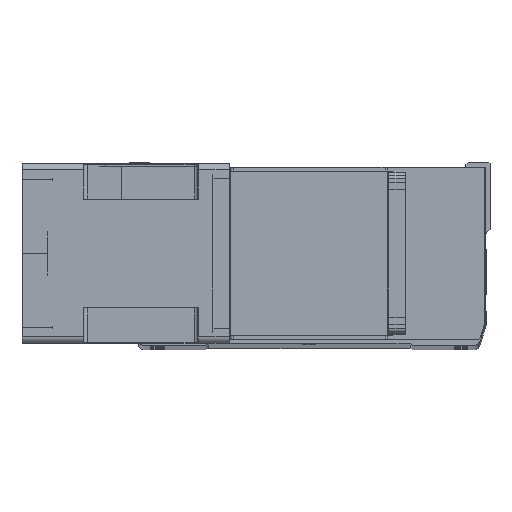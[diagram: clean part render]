
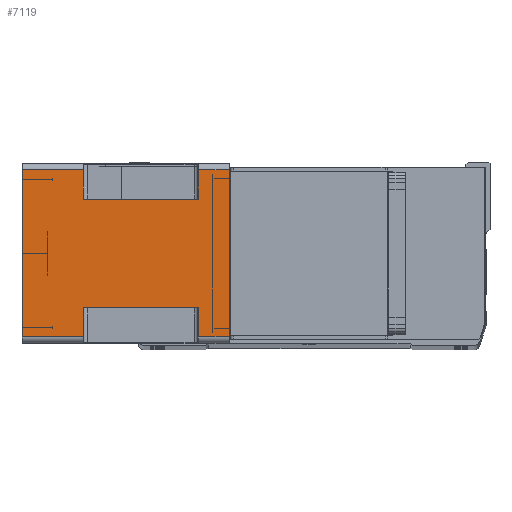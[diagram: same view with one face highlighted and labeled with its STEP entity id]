
A CAD part, top view. The second image highlights one B-rep face of the part: STEP entity #7119.
In plain terms, the highlighted planar face has unit normal (0, 0, 1) as drawn and (-1, 0, 0) by its records, which use the part's own axes.
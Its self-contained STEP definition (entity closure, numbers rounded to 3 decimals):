
#190 = CARTESIAN_POINT ( 'NONE',  ( -71., -66., -164. ) ) ;
#579 = VECTOR ( 'NONE', #14126, 1000. ) ;
#592 = VERTEX_POINT ( 'NONE', #5263 ) ;
#1368 = LINE ( 'NONE', #35468, #8006 ) ;
#2815 = VERTEX_POINT ( 'NONE', #42712 ) ;
#3352 = DIRECTION ( 'NONE',  ( 0., -1., 0. ) ) ;
#4377 = VERTEX_POINT ( 'NONE', #14183 ) ;
#5263 = CARTESIAN_POINT ( 'NONE',  ( -71., -43., -115.5 ) ) ;
#5318 = VECTOR ( 'NONE', #20787, 1000. ) ;
#6945 = ORIENTED_EDGE ( 'NONE', *, *, #34319, .T. ) ;
#7016 = CARTESIAN_POINT ( 'NONE',  ( -71., -66., -115.5 ) ) ;
#7091 = LINE ( 'NONE', #35475, #20367 ) ;
#7119 = ADVANCED_FACE ( 'NONE', ( #14663 ), #42108, .T. ) ;
#7985 = CARTESIAN_POINT ( 'NONE',  ( -71., -66., -115.5 ) ) ;
#8006 = VECTOR ( 'NONE', #18277, 1000. ) ;
#8686 = CARTESIAN_POINT ( 'NONE',  ( -71., 66., 0. ) ) ;
#8921 = ORIENTED_EDGE ( 'NONE', *, *, #37000, .T. ) ;
#9032 = CARTESIAN_POINT ( 'NONE',  ( -71., 66., -115.5 ) ) ;
#9095 = EDGE_CURVE ( 'NONE', #4377, #18160, #34896, .T. ) ;
#9332 = LINE ( 'NONE', #15370, #28165 ) ;
#9591 = DIRECTION ( 'NONE',  ( 0., 1., 0. ) ) ;
#10053 = CARTESIAN_POINT ( 'NONE',  ( -71., -43., -115.5 ) ) ;
#11007 = DIRECTION ( 'NONE',  ( 0., 0., 1. ) ) ;
#11653 = ORIENTED_EDGE ( 'NONE', *, *, #19585, .T. ) ;
#13580 = CARTESIAN_POINT ( 'NONE',  ( -71., -66., -164. ) ) ;
#14031 = DIRECTION ( 'NONE',  ( -1., 0., 0. ) ) ;
#14126 = DIRECTION ( 'NONE',  ( 0., -1., 0. ) ) ;
#14183 = CARTESIAN_POINT ( 'NONE',  ( -71., 66., -164. ) ) ;
#14238 = EDGE_CURVE ( 'NONE', #18160, #36645, #31887, .T. ) ;
#14663 = FACE_OUTER_BOUND ( 'NONE', #46023, .T. ) ;
#14752 = CARTESIAN_POINT ( 'NONE',  ( -71., 66., -164. ) ) ;
#15370 = CARTESIAN_POINT ( 'NONE',  ( -71., -43., -164. ) ) ;
#15800 = VERTEX_POINT ( 'NONE', #8686 ) ;
#15878 = VECTOR ( 'NONE', #38753, 1000. ) ;
#15987 = VECTOR ( 'NONE', #37329, 1000. ) ;
#16794 = CARTESIAN_POINT ( 'NONE',  ( -71., 66., -24.5 ) ) ;
#17141 = LINE ( 'NONE', #10053, #38205 ) ;
#17968 = ORIENTED_EDGE ( 'NONE', *, *, #40239, .T. ) ;
#18160 = VERTEX_POINT ( 'NONE', #43699 ) ;
#18277 = DIRECTION ( 'NONE',  ( 0., -1., 0. ) ) ;
#18983 = CARTESIAN_POINT ( 'NONE',  ( -71., -43., -24.5 ) ) ;
#19194 = LINE ( 'NONE', #7016, #15878 ) ;
#19210 = DIRECTION ( 'NONE',  ( 0., 0., -1. ) ) ;
#19310 = LINE ( 'NONE', #19511, #15987 ) ;
#19510 = LINE ( 'NONE', #24935, #27837 ) ;
#19511 = CARTESIAN_POINT ( 'NONE',  ( -71., 43., -164. ) ) ;
#19585 = EDGE_CURVE ( 'NONE', #36645, #592, #17141, .T. ) ;
#20367 = VECTOR ( 'NONE', #42360, 1000. ) ;
#20555 = LINE ( 'NONE', #39732, #37186 ) ;
#20787 = DIRECTION ( 'NONE',  ( 0., 0., 1. ) ) ;
#21084 = VERTEX_POINT ( 'NONE', #16794 ) ;
#21539 = VERTEX_POINT ( 'NONE', #9032 ) ;
#22140 = VECTOR ( 'NONE', #11007, 1000. ) ;
#22413 = DIRECTION ( 'NONE',  ( 0., 0., 1. ) ) ;
#22978 = ORIENTED_EDGE ( 'NONE', *, *, #14238, .T. ) ;
#24335 = EDGE_CURVE ( 'NONE', #21084, #15800, #20555, .T. ) ;
#24662 = ORIENTED_EDGE ( 'NONE', *, *, #34336, .F. ) ;
#24890 = EDGE_CURVE ( 'NONE', #4377, #21539, #32714, .T. ) ;
#24935 = CARTESIAN_POINT ( 'NONE',  ( -71., -66., -164. ) ) ;
#25395 = DIRECTION ( 'NONE',  ( 0., -1., 0. ) ) ;
#25879 = ORIENTED_EDGE ( 'NONE', *, *, #24890, .F. ) ;
#26357 = EDGE_CURVE ( 'NONE', #35544, #21539, #19194, .T. ) ;
#27311 = VERTEX_POINT ( 'NONE', #28215 ) ;
#27837 = VECTOR ( 'NONE', #22413, 1000. ) ;
#28165 = VECTOR ( 'NONE', #19210, 1000. ) ;
#28215 = CARTESIAN_POINT ( 'NONE',  ( -71., -66., 0. ) ) ;
#29097 = EDGE_CURVE ( 'NONE', #44098, #592, #9332, .T. ) ;
#31883 = EDGE_CURVE ( 'NONE', #35544, #45043, #19310, .T. ) ;
#31887 = LINE ( 'NONE', #13580, #5318 ) ;
#32227 = ORIENTED_EDGE ( 'NONE', *, *, #29097, .F. ) ;
#32714 = LINE ( 'NONE', #14752, #22140 ) ;
#32824 = CARTESIAN_POINT ( 'NONE',  ( -71., -66., 0. ) ) ;
#33855 = ORIENTED_EDGE ( 'NONE', *, *, #9095, .T. ) ;
#34319 = EDGE_CURVE ( 'NONE', #21084, #45043, #1368, .T. ) ;
#34336 = EDGE_CURVE ( 'NONE', #15800, #27311, #38467, .T. ) ;
#34762 = CARTESIAN_POINT ( 'NONE',  ( -71., 43., -115.5 ) ) ;
#34896 = LINE ( 'NONE', #190, #579 ) ;
#35351 = ORIENTED_EDGE ( 'NONE', *, *, #26357, .T. ) ;
#35468 = CARTESIAN_POINT ( 'NONE',  ( -71., 43., -24.5 ) ) ;
#35475 = CARTESIAN_POINT ( 'NONE',  ( -71., -66., -24.5 ) ) ;
#35544 = VERTEX_POINT ( 'NONE', #34762 ) ;
#36588 = ORIENTED_EDGE ( 'NONE', *, *, #24335, .F. ) ;
#36645 = VERTEX_POINT ( 'NONE', #7985 ) ;
#37000 = EDGE_CURVE ( 'NONE', #44098, #2815, #7091, .T. ) ;
#37186 = VECTOR ( 'NONE', #43019, 1000. ) ;
#37329 = DIRECTION ( 'NONE',  ( 0., 0., 1. ) ) ;
#37368 = VECTOR ( 'NONE', #25395, 1000. ) ;
#38205 = VECTOR ( 'NONE', #9591, 1000. ) ;
#38467 = LINE ( 'NONE', #32824, #37368 ) ;
#38736 = ORIENTED_EDGE ( 'NONE', *, *, #31883, .F. ) ;
#38753 = DIRECTION ( 'NONE',  ( 0., 1., 0. ) ) ;
#39732 = CARTESIAN_POINT ( 'NONE',  ( -71., 66., -164. ) ) ;
#40218 = CARTESIAN_POINT ( 'NONE',  ( -71., 43., -24.5 ) ) ;
#40239 = EDGE_CURVE ( 'NONE', #2815, #27311, #19510, .T. ) ;
#40745 = AXIS2_PLACEMENT_3D ( 'NONE', #45840, #14031, #3352 ) ;
#42108 = PLANE ( 'NONE',  #40745 ) ;
#42360 = DIRECTION ( 'NONE',  ( 0., -1., 0. ) ) ;
#42712 = CARTESIAN_POINT ( 'NONE',  ( -71., -66., -24.5 ) ) ;
#43019 = DIRECTION ( 'NONE',  ( 0., 0., 1. ) ) ;
#43699 = CARTESIAN_POINT ( 'NONE',  ( -71., -66., -164. ) ) ;
#44098 = VERTEX_POINT ( 'NONE', #18983 ) ;
#45043 = VERTEX_POINT ( 'NONE', #40218 ) ;
#45840 = CARTESIAN_POINT ( 'NONE',  ( -71., -66., -164. ) ) ;
#46023 = EDGE_LOOP ( 'NONE', ( #22978, #11653, #32227, #8921, #17968, #24662, #36588, #6945, #38736, #35351, #25879, #33855 ) ) ;
